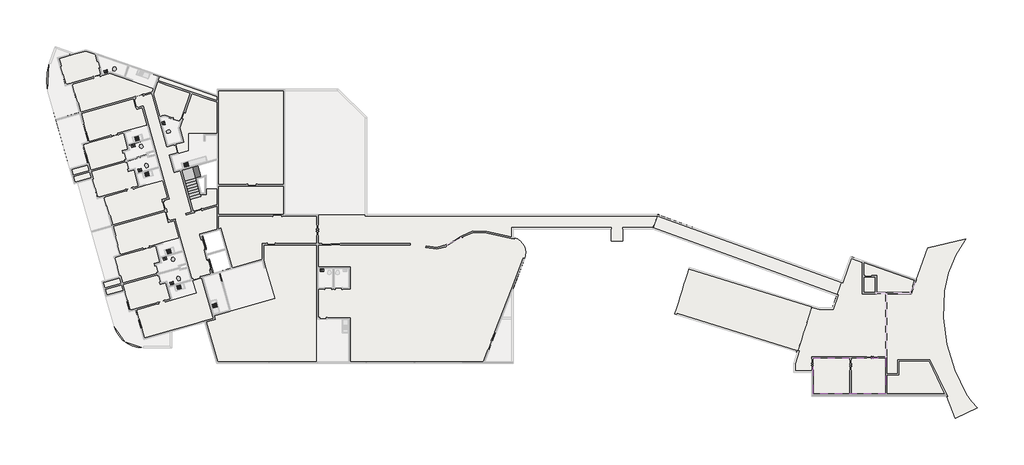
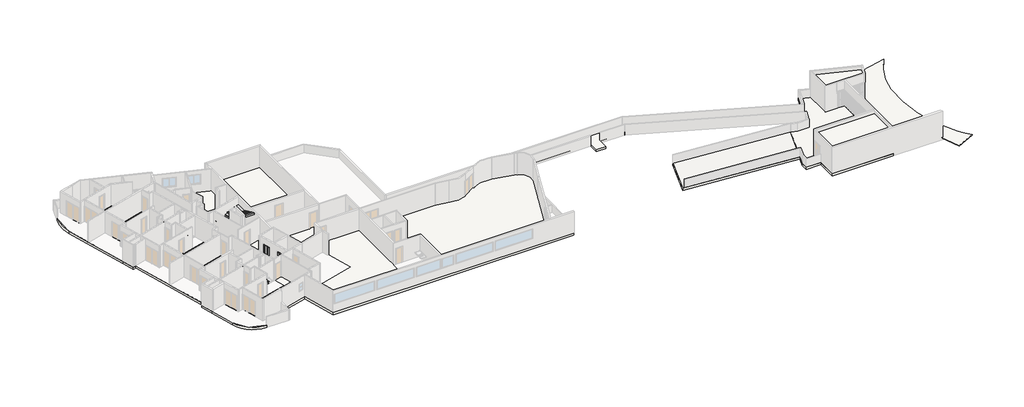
# One storey, part 6 of 7: 19 flow terminals, 7 slabs, 2 proxies, 1 stair flight.
"""IFC4 building model written with IfcOpenShell, lengths in millimetres."""

from ifc_helpers import new_model, si_unit, point, frame, frame_2d, origin, place, context, project, spatial, polyline, circle_curve, trimmed, segment, composite_curve, outline, extrude, faceted_brep, transform, mapped, element, save
from ifc_brep_helpers import plane_surface, cylinder_surface, spline_surface, advanced_brep
from components import specialty_equipment_6c35da8b, specialty_equipment_77dfa124, flow_terminal_cab7bae2, flow_terminal_3fb7dc42, flow_terminal_e42b9071, flow_terminal_c6e042c4, ap_01_creme_cr37_13e02e03, ap_01_creme_cr37_5ce6e54d

model = new_model("IFC4")

# Units and contexts
model_context = context("Model", 3, world=origin())
ifc_project = project(units=[si_unit("LENGTHUNIT", "METRE", prefix="MILLI")], contexts=[model_context])

# Site, building, storey
site = spatial("IfcSite", under=ifc_project)
building = spatial("IfcBuilding", under=site)
storey = spatial("IfcBuildingStorey", under=building, Name="Térreo", Elevation=50750.0)

# Proxies
placement = place(None, origin())
specialty_equipment_shape = specialty_equipment_6c35da8b(model_context)
element("IfcBuildingElementProxy", 1, Name="Porta do elevador : Porta do elevador", ObjectType="Porta do elevador : Porta do elevador", at=placement, inside=storey, context=model_context, shape_type="MappedRepresentation", body=[
    mapped(specialty_equipment_shape, transform((-76594.4337486, 15747.4543727, 50750.0), x_axis=(0.27176796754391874, -0.9623628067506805, 0.0), y_axis=(0.9623628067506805, 0.27176796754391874, 0.0), z_axis=(0.0, 0.0, 1.0))),
])
specialty_equipment_2_shape = specialty_equipment_77dfa124(model_context)
element("IfcBuildingElementProxy", 2, Name="Porta do elevador : Porta do elevador", ObjectType="Porta do elevador : Porta do elevador", at=placement, inside=storey, context=model_context, shape_type="MappedRepresentation", body=[
    mapped(specialty_equipment_2_shape, transform((-75942.1906265, 13437.7836365, 50750.0), x_axis=(-0.27176796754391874, 0.9623628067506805, 0.0), y_axis=(-0.9623628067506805, -0.27176796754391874, 0.0), z_axis=(0.0, 0.0, 1.0))),
])

# Flow terminals
flow_terminal_shape = flow_terminal_cab7bae2(model_context)
element("IfcFlowTerminal", 3, ObjectType="RF_Pias : Pia da Bancada", at=placement, inside=storey, context=model_context, shape_type="MappedRepresentation", body=[
    mapped(flow_terminal_shape, transform((-83380.5102831, 26570.4992214, 50602.9), x_axis=(-0.9623628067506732, -0.27176796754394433, 0.0), y_axis=(0.27176796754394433, -0.9623628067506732, 0.0), z_axis=(0.0, 0.0, 1.0))),
])
element("IfcFlowTerminal", 4, ObjectType="RF_Pias : Pia da Bancada", at=placement, inside=storey, context=model_context, shape_type="MappedRepresentation", body=[
    mapped(flow_terminal_shape, transform((-80092.1178758, 14925.9092597, 50602.9), x_axis=(-0.9623628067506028, -0.2717679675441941, 0.0), y_axis=(0.2717679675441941, -0.9623628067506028, 0.0), z_axis=(0.0, 0.0, 1.0))),
])
element("IfcFlowTerminal", 5, ObjectType="RF_Pias : Pia da Bancada", at=placement, inside=storey, context=model_context, shape_type="MappedRepresentation", body=[
    mapped(flow_terminal_shape, transform((-78306.8185143, 23885.0542694, 50602.9), x_axis=(-0.9623628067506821, -0.27176796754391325, 0.0), y_axis=(0.27176796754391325, -0.9623628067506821, 0.0), z_axis=(0.0, 0.0, 1.0))),
])
element("IfcFlowTerminal", 6, ObjectType="RF_Pias : Pia da Bancada", at=placement, inside=storey, context=model_context, shape_type="MappedRepresentation", body=[
    mapped(flow_terminal_shape, transform((-75375.3964006, 9339.3746481, 50582.9), x_axis=(-0.27176796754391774, 0.9623628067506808, 0.0), y_axis=(-0.9623628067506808, -0.27176796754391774, 0.0), z_axis=(0.0, 0.0, 1.0))),
])
flow_terminal_2_shape = flow_terminal_3fb7dc42(model_context)
element("IfcFlowTerminal", 7, ObjectType="Deca_Cuba de Apoio Retangular_L7300 : L.7300.17_Branco Gelo GE17", at=placement, inside=storey, context=model_context, shape_type="MappedRepresentation", body=[
    mapped(flow_terminal_2_shape, transform((-83090.0822283, 23308.7374016, 51500.0), x_axis=(-0.9623628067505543, -0.2717679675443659, 0.0), y_axis=(0.2717679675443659, -0.9623628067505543, 0.0), z_axis=(0.0, 0.0, 1.0))),
])
element("IfcFlowTerminal", 8, ObjectType="Deca_Cuba de Apoio Retangular_L7300 : L.7300.17_Branco Gelo GE17", at=placement, inside=storey, context=model_context, shape_type="MappedRepresentation", body=[
    mapped(flow_terminal_2_shape, transform((-79801.689821, 11664.1474399, 51500.0), x_axis=(-0.9623628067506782, -0.2717679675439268, 0.0), y_axis=(0.2717679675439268, -0.9623628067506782, 0.0), z_axis=(0.0, 0.0, 1.0))),
])
element("IfcFlowTerminal", 9, ObjectType="Deca_Cuba de Apoio Retangular_L7300 : L.7300.17_Branco Gelo GE17", at=placement, inside=storey, context=model_context, shape_type="MappedRepresentation", body=[
    mapped(flow_terminal_2_shape, transform((-80677.0991462, 28154.8020678, 51500.0), x_axis=(-0.2717679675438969, 0.9623628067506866, 0.0), y_axis=(-0.9623628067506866, -0.2717679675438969, 0.0), z_axis=(0.0, 0.0, 1.0))),
])
element("IfcFlowTerminal", 10, ObjectType="Deca_Cuba de Apoio Retangular_L7300 : L.7300.17_Branco Gelo GE17", at=placement, inside=storey, context=model_context, shape_type="MappedRepresentation", body=[
    mapped(flow_terminal_2_shape, transform((-86597.4204814, 33488.7004496, 51500.0), x_axis=(-0.9623628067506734, -0.27176796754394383, 0.0), y_axis=(0.27176796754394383, -0.9623628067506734, 0.0), z_axis=(0.0, 0.0, 1.0))),
])
element("IfcFlowTerminal", 11, ObjectType="Deca_Cuba de Apoio Retangular_L7300 : L.7300.17_Branco Gelo GE17", at=placement, inside=storey, context=model_context, shape_type="MappedRepresentation", body=[
    mapped(flow_terminal_2_shape, transform((-64330.7937868, 13026.8602024, 51500.0), x_axis=(1.0, 0.0, 0.0), y_axis=(0.0, 1.0, 0.0), z_axis=(0.0, 0.0, 1.0))),
])
flow_terminal_3_shape = flow_terminal_e42b9071(model_context)
element("IfcFlowTerminal", 12, ObjectType="Deca_Cuba de Apoio Retangular_L7300 : L.7300.17_Branco Gelo GE17", at=placement, inside=storey, context=model_context, shape_type="MappedRepresentation", body=[
    mapped(flow_terminal_3_shape, transform((-83802.1143033, 25830.1279553, 51500.0), x_axis=(-0.9623628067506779, -0.2717679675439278, 0.0), y_axis=(0.2717679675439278, -0.9623628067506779, 0.0), z_axis=(0.0, 0.0, 1.0))),
])
element("IfcFlowTerminal", 13, ObjectType="Deca_Cuba de Apoio Retangular_L7300 : L.7300.17_Branco Gelo GE17", at=placement, inside=storey, context=model_context, shape_type="MappedRepresentation", body=[
    mapped(flow_terminal_3_shape, transform((-80513.721896, 14185.5379936, 51500.0), x_axis=(-0.962362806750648, -0.27176796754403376, 0.0), y_axis=(0.27176796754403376, -0.962362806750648, 0.0), z_axis=(0.0, 0.0, 1.0))),
])
flow_terminal_4_shape = flow_terminal_c6e042c4(model_context)
element("IfcFlowTerminal", 14, ObjectType="RF_Pias : Pia da Bancada", at=placement, inside=storey, context=model_context, shape_type="MappedRepresentation", body=[
    mapped(flow_terminal_4_shape, transform((-82343.483233, 22898.2626745, 50602.9), x_axis=(-0.9623628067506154, -0.27176796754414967, 0.0), y_axis=(0.27176796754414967, -0.9623628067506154, 0.0), z_axis=(0.0, 0.0, 1.0))),
])
element("IfcFlowTerminal", 15, ObjectType="RF_Pias : Pia da Bancada", at=placement, inside=storey, context=model_context, shape_type="MappedRepresentation", body=[
    mapped(flow_terminal_4_shape, transform((-79055.0908257, 11253.6727129, 50602.9), x_axis=(-0.9623628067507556, -0.27176796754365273, 0.0), y_axis=(0.27176796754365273, -0.9623628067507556, 0.0), z_axis=(0.0, 0.0, 1.0))),
])
ap_01_creme_cr37_shape = ap_01_creme_cr37_13e02e03(model_context)
element("IfcFlowTerminal", 16, ObjectType="Deca_Shared_Assento_P.900 : AP.01_Creme CR37", at=placement, inside=storey, context=model_context, shape_type="MappedRepresentation", body=[
    mapped(ap_01_creme_cr37_shape, transform((-83017.5301151, 25983.4740486, 51137.8723674), x_axis=(0.9623628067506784, 0.2717679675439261, 0.0), y_axis=(0.0, 0.0, 1.0), z_axis=(0.2717679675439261, -0.9623628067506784, 0.0))),
])
element("IfcFlowTerminal", 17, ObjectType="Deca_Shared_Assento_P.900 : AP.01_Creme CR37", at=placement, inside=storey, context=model_context, shape_type="MappedRepresentation", body=[
    mapped(ap_01_creme_cr37_shape, transform((-79729.1377078, 14338.8840869, 51137.8723674), x_axis=(0.962362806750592, 0.2717679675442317, 0.0), y_axis=(0.0, 0.0, 1.0), z_axis=(0.2717679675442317, -0.962362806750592, 0.0))),
])
element("IfcFlowTerminal", 18, ObjectType="Deca_Shared_Assento_P.900 : AP.01_Creme CR37", at=placement, inside=storey, context=model_context, shape_type="MappedRepresentation", body=[
    mapped(ap_01_creme_cr37_shape, transform((-80349.5164684, 27236.3600819, 51137.8723674), x_axis=(-0.271767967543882, 0.9623628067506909, 0.0), y_axis=(0.0, 0.0, 1.0), z_axis=(0.9623628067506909, 0.271767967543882, 0.0))),
])
element("IfcFlowTerminal", 19, ObjectType="Deca_Shared_Assento_P.900 : AP.01_Creme CR37", at=placement, inside=storey, context=model_context, shape_type="MappedRepresentation", body=[
    mapped(ap_01_creme_cr37_shape, transform((-85777.8760768, 33566.4131555, 51137.8723674), x_axis=(-0.9449109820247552, 0.3273274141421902, 0.0), y_axis=(0.0, 0.0, 1.0000000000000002), z_axis=(0.3273274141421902, 0.9449109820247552, 0.0))),
])
ap_01_creme_cr37_2_shape = ap_01_creme_cr37_5ce6e54d(model_context)
element("IfcFlowTerminal", 20, ObjectType="Deca_Shared_Assento_P.900 : AP.01_Creme CR37", at=placement, inside=storey, context=model_context, shape_type="MappedRepresentation", body=[
    mapped(ap_01_creme_cr37_2_shape, transform((-82341.1813229, 23588.4422577, 51137.8723674), x_axis=(0.9623628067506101, 0.27176796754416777, 0.0), y_axis=(0.0, 0.0, -1.0), z_axis=(-0.27176796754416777, 0.9623628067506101, 0.0))),
])
element("IfcFlowTerminal", 21, ObjectType="Deca_Shared_Assento_P.900 : AP.01_Creme CR37", at=placement, inside=storey, context=model_context, shape_type="MappedRepresentation", body=[
    mapped(ap_01_creme_cr37_2_shape, transform((-79052.7889156, 11943.852296, 51137.8723674), x_axis=(0.9623628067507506, 0.2717679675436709, 0.0), y_axis=(0.0, 0.0, -1.0000000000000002), z_axis=(-0.2717679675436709, 0.9623628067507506, 0.0))),
])

# Slabs
element("IfcSlab", 22, ObjectType="Calçada", at=placement, inside=storey, context=model_context, shape_type="SweptSolid", body=[
    extrude(outline(composite_curve([segment(polyline([(-6138.4895645, 10557.3610556), (-3630.2706365, 10557.3610556), (-1963.3192226, 15271.3055805), (1951.4298644, 16208.1094907)]), True, "CONTINUOUS"), segment(trimmed(circle_curve(frame_2d((11644.971271, 9076.7694281)), 12034.149579), [point((1951.4298644, 16208.1094907))], [point((-260.1099974, 10834.5510077))], True, "CARTESIAN"), True, "CONTINUOUS"), segment(trimmed(circle_curve(frame_2d((16922.5456013, 8955.2746122)), 17285.1188366), [point((-260.1099974, 10834.5510077))], [point((2021.9216068, 194.7530655))], True, "CARTESIAN"), True, "CONTINUOUS"), segment(trimmed(circle_curve(frame_2d((8554.1916568, 4566.6956452)), 7860.3074956), [point((2021.9216068, 194.7530655))], [point((3179.1429854, -1168.571193))], True, "CARTESIAN"), True, "CONTINUOUS"), segment(polyline([(3179.1429854, -1168.571193), (890.7807838, -2286.4167189), (0.0, 0.0), (-78.0010107, 176.7254857)]), True, "CONTINUOUS"), segment(trimmed(circle_curve(frame_2d((15539.2697894, 9819.3259237)), 18354.2608255), [point((-78.0010107, 176.7254857))], [point((-1780.5648156, 3744.6062013))], False, "CARTESIAN"), True, "CONTINUOUS"), segment(polyline([(-1780.5648156, 3744.6062013), (-5014.4776622, 3744.6062013), (-5014.4776622, 2289.5154777), (-6138.4895645, 2289.5154777), (-6138.4895645, 10557.3610556)]), True, "CONTINUOUS")], self_intersect=False)), frame((0.0, 0.0, 49900.0), z_axis=(0.0, 0.0, 1.0), x_axis=(1.0, 0.0, 0.0)), (0.0, 0.0, 1.0), 100.0),
])
element("IfcSlab", 23, ObjectType="Grama Frente", at=placement, inside=storey, context=model_context, shape_type="SweptSolid", body=[
    extrude(outline(composite_curve([segment(polyline([(-4914.4776622, 3644.6062013), (-1798.2517429, 3644.6062013)]), True, "CONTINUOUS"), segment(trimmed(circle_curve(frame_2d((15539.2697894, 9819.3259237)), 18404.2608255), [point((-1798.2517429, 3644.6062013))], [point((-174.4948356, 238.3855813))], True, "CARTESIAN"), True, "CONTINUOUS"), segment(polyline([(-174.4948356, 238.3855813), (-6138.4895645, 238.3855813), (-6138.4895645, 2189.5154777), (-4914.4776622, 2189.5154777), (-4914.4776622, 3644.6062013)]), True, "CONTINUOUS")], self_intersect=False)), frame((0.0, 0.0, 49980.0), z_axis=(0.0, 0.0, 1.0), x_axis=(1.0, 0.0, 0.0)), (0.0, 0.0, 1.0), 50.0),
])
element("IfcSlab", 24, ObjectType="Laje do Terreno .30", at=placement, inside=storey, context=model_context, shape_type="SweptSolid", body=[
    extrude(outline(polyline([(-13902.9200377, 2488.9358327), (-15756.6412873, 2488.9358327), (-15756.6412873, 3354.594116), (-13851.9459486, 9322.604868), (-13088.3584045, 9085.4720862), (-11789.7304593, 9085.4720862), (-9887.8824024, 14414.0009377), (-3132.6390529, 12002.932743), (-3642.9714979, 10573.101823), (-6138.4895645, 10573.101823), (-6138.4895645, 9085.4720862), (-6138.4895645, -11.6144187), (-13902.9200377, -11.6144187), (-13902.9200377, 2488.9358327)])), frame((0.0, 0.0, 49700.0), z_axis=(0.0, 0.0, 1.0), x_axis=(1.0, 0.0, 0.0)), (0.0, 0.0, 1.0), 300.0),
])
element("IfcSlab", 25, ObjectType="TZ_Laje 30cm", at=placement, inside=storey, context=model_context, shape_type="AdvancedBrep", body=[
    advanced_brep(
    [(-82713.5540687, 4969.4122055, 50450.0), (-82751.3896972, 4969.4122055, 50450.0), (-85734.7143981, 7226.9315061, 50450.0), (-86588.8282747, 10251.4506758, 50450.0), (-86574.3928326, 10255.5271953, 50450.0), (-87018.7334595, 11828.9903844, 50450.0), (-86664.6795577, 11928.9739962, 50450.0), (-89512.8078575, 22014.5362109, 50450.0), (-89866.8617594, 21914.5525991, 50450.0), (-90311.2023863, 23488.0157882, 50450.0), (-90325.6378284, 23483.9392686, 50450.0), (-92573.2320087, 31442.9384962, 50450.0), (-92426.4466323, 34320.9224218, 50450.0), (-92422.0160621, 34333.7123509, 50450.0), (-92403.1178425, 34327.1658026, 50450.0), (-91809.986912, 36039.3839237, 50450.0), (-89899.2062586, 35377.468778, 50450.0), (-88658.6666899, 35727.7929124, 50450.0), (-75017.8282189, 31002.4584964, 50450.0), (-75017.8282189, 31653.8506069, 50450.0), (-62647.9579338, 31653.8506069, 50450.0), (-59748.6137209, 28783.499836, 50450.0), (-59748.6137209, 18732.5140353, 50450.0), (-29737.7953477, 18732.5140353, 50450.0), (-30275.4164284, 17249.2111284, 50450.0), (-33355.8701557, 17249.2111284, 50450.0), (-33355.8701557, 16029.7640731, 50450.0), (-34555.8701557, 16029.7640731, 50450.0), (-34555.8701557, 17249.2111284, 50450.0), (-44655.8696428, 17249.2111284, 50450.0), (-44675.8696428, 17249.2111284, 50450.0), (-44675.8696428, 16382.8294903, 50450.0), (-44655.8696428, 16378.3879966, 50450.0), (-44471.9861969, 16337.552138, 50450.0), (-43468.7505227, 14203.3206841, 50450.0), (-44655.8696428, 11136.1948461, 50450.0), (-44675.8696428, 11084.5214161, 50450.0), (-44675.8696428, 3431.0495751, 50450.0), (-44805.8696428, 3431.0495751, 50450.0), (-75180.5270822, 3431.0495751, 50450.0), (-76371.9880656, 7650.1551103, 50450.0), (-79815.4990038, 6677.7193903, 50450.0), (-79815.4990038, 4989.4122055, 50450.0), (-82713.5540687, 4989.4122055, 50450.0), (-81583.0058223, 25225.452261, 50450.0), (-82247.0361589, 25037.9323634, 50450.0), (-82179.094167, 24797.3416617, 50450.0), (-81515.0638304, 24984.8615593, 50450.0), (-78294.613415, 13580.8622993, 50450.0), (-78958.6437516, 13393.3424017, 50450.0), (-78890.7017597, 13152.7517, 50450.0), (-78226.6714231, 13340.2715976, 50450.0), (-78094.9681797, 20792.6698521, 50450.0), (-76942.9445832, 21117.9973784, 50450.0), (-76858.5413412, 20819.1154254, 50450.0), (-76278.8251242, 20819.1154254, 50450.0), (-76278.8251242, 21399.8710626, 50450.0), (-75147.8282189, 21399.8710626, 50450.0), (-75147.8282189, 24343.0530162, 50450.0), (-78807.9060206, 23309.4595541, 50450.0), (-74840.4856705, 17153.3066079, 50450.0), (-76760.3994699, 16611.1295126, 50450.0), (-76221.8794944, 14704.1660107, 50450.0), (-75646.150803, 12665.442005, 50450.0), (-73726.2370035, 13207.6191002, 50450.0), (-74270.7319215, 15135.7405865, 50450.0), (-82713.5540687, 4969.4122055, 50750.0), (-82713.5540687, 4989.4122055, 50750.0), (-79815.4990038, 4989.4122055, 50750.0), (-79815.4990038, 6677.7193903, 50750.0), (-76371.9880656, 7650.1551103, 50750.0), (-75180.5270822, 3431.0495751, 50750.0), (-44805.8696428, 3431.0495751, 50750.0), (-44675.8696428, 3431.0495751, 50750.0), (-44675.8696428, 11084.5214161, 50750.0), (-44655.8696428, 11136.1948461, 50750.0), (-43468.7505227, 14203.3206841, 50750.0), (-44471.9861969, 16337.552138, 50750.0), (-44655.8696428, 16378.3879966, 50750.0), (-44675.8696428, 16382.8294903, 50750.0), (-44675.8696428, 17249.2111284, 50750.0), (-44655.8696428, 17249.2111284, 50750.0), (-34555.8701557, 17249.2111284, 50750.0), (-34555.8701557, 16029.7640731, 50750.0), (-33355.8701557, 16029.7640731, 50750.0), (-33355.8701557, 17249.2111284, 50750.0), (-30275.4164284, 17249.2111284, 50750.0), (-29737.7953477, 18732.5140353, 50750.0), (-59748.6137209, 18732.5140353, 50750.0), (-59748.6137209, 28783.499836, 50750.0), (-62647.9579338, 31653.8506069, 50750.0), (-75017.8282189, 31653.8506069, 50750.0), (-75017.8282189, 31002.4584964, 50750.0), (-88658.6666899, 35727.7929124, 50750.0), (-89899.2062586, 35377.468778, 50750.0), (-91809.986912, 36039.3839237, 50750.0), (-92403.1178425, 34327.1658026, 50750.0), (-92422.0160621, 34333.7123509, 50750.0), (-92426.4466323, 34320.9224218, 50750.0), (-92573.2320087, 31442.9384962, 50750.0), (-90325.6378284, 23483.9392686, 50750.0), (-90311.2023863, 23488.0157882, 50750.0), (-89866.8617594, 21914.5525991, 50750.0), (-89512.8078575, 22014.5362109, 50750.0), (-86664.6795577, 11928.9739962, 50750.0), (-87018.7334595, 11828.9903844, 50750.0), (-86574.3928326, 10255.5271953, 50750.0), (-86588.8282747, 10251.4506758, 50750.0), (-85734.7143981, 7226.9315061, 50750.0), (-82751.3896972, 4969.4122055, 50750.0), (-81583.0058223, 25225.452261, 50750.0), (-81515.0638304, 24984.8615593, 50750.0), (-82179.094167, 24797.3416617, 50750.0), (-82247.0361589, 25037.9323634, 50750.0), (-78294.613415, 13580.8622993, 50750.0), (-78226.6714231, 13340.2715976, 50750.0), (-78890.7017597, 13152.7517, 50750.0), (-78958.6437516, 13393.3424017, 50750.0), (-78094.9681797, 20792.6698521, 50750.0), (-78807.9060206, 23309.4595541, 50750.0), (-75147.8282189, 24343.0530162, 50750.0), (-75147.8282189, 21399.8710626, 50750.0), (-76278.8251242, 21399.8710626, 50750.0), (-76278.8251242, 20819.1154254, 50750.0), (-76858.5413412, 20819.1154254, 50750.0), (-76942.9445832, 21117.9973784, 50750.0), (-74840.4856705, 17153.3066079, 50750.0), (-74270.7319215, 15135.7405865, 50750.0), (-73726.2370035, 13207.6191002, 50750.0), (-75646.150803, 12665.442005, 50750.0), (-76221.8794944, 14704.1660107, 50750.0), (-76760.3994699, 16611.1295126, 50750.0)],
    [
        (0, 1),
        (1, 2, circle_curve(frame((-82751.3896972, 8069.4122055, 50450.0), z_axis=(0.0, 0.0, -1.0), x_axis=(1.0, 0.0, 0.0)), 3100.0)),
        (2, 3),
        (3, 4),
        (4, 5),
        (5, 6),
        (6, 7),
        (7, 8),
        (8, 9),
        (9, 10),
        (10, 11),
        (11, 12, circle_curve(frame((-87414.5556743, 32622.5665107, 50450.0), z_axis=(0.0, 0.0, -1.0), x_axis=(1.0, 0.0, 0.0)), 5291.829908)),
        (12, 13),
        (13, 14),
        (14, 15),
        (15, 16),
        (16, 17),
        (17, 18),
        (18, 19),
        (19, 20),
        (20, 21),
        (21, 22),
        (22, 23),
        (23, 24),
        (24, 25),
        (25, 26),
        (26, 27),
        (27, 28),
        (28, 29),
        (29, 30),
        (30, 31),
        (31, 32),
        (32, 33),
        (33, 34, circle_curve(frame((-44988.8624494, 14791.6740899, 50450.0), z_axis=(0.0, 0.0, -1.0), x_axis=(1.0, 0.0, 0.0)), 1630.0)),
        (34, 35),
        (35, 36),
        (36, 37),
        (37, 38),
        (38, 39),
        (39, 40),
        (40, 41),
        (41, 42),
        (42, 43),
        (43, 0),
        (44, 45),
        (45, 46),
        (46, 47),
        (47, 44),
        (48, 49),
        (49, 50),
        (50, 51),
        (51, 48),
        (52, 53),
        (53, 54),
        (54, 55),
        (55, 56),
        (56, 57),
        (57, 58),
        (58, 59),
        (59, 52),
        (60, 61),
        (61, 62),
        (62, 63),
        (63, 64),
        (64, 65),
        (65, 60),
        (66, 67),
        (67, 68),
        (68, 69),
        (69, 70),
        (70, 71),
        (71, 72),
        (72, 73),
        (73, 74),
        (74, 75),
        (75, 76),
        (76, 77, circle_curve(frame((-44988.8624494, 14791.6740899, 50750.0), z_axis=(0.0, 0.0, 1.0), x_axis=(1.0, 0.0, 0.0)), 1630.0)),
        (77, 78),
        (78, 79),
        (79, 80),
        (80, 81),
        (81, 82),
        (82, 83),
        (83, 84),
        (84, 85),
        (85, 86),
        (86, 87),
        (87, 88),
        (88, 89),
        (89, 90),
        (90, 91),
        (91, 92),
        (92, 93),
        (93, 94),
        (94, 95),
        (95, 96),
        (96, 97),
        (97, 98),
        (98, 99, circle_curve(frame((-87414.5556743, 32622.5665107, 50750.0), z_axis=(0.0, 0.0, 1.0), x_axis=(1.0, 0.0, 0.0)), 5291.829908)),
        (99, 100),
        (100, 101),
        (101, 102),
        (102, 103),
        (103, 104),
        (104, 105),
        (105, 106),
        (106, 107),
        (107, 108),
        (108, 109, circle_curve(frame((-82751.3896972, 8069.4122055, 50750.0), z_axis=(0.0, 0.0, 1.0), x_axis=(1.0, 0.0, 0.0)), 3100.0)),
        (109, 66),
        (110, 111),
        (111, 112),
        (112, 113),
        (113, 110),
        (114, 115),
        (115, 116),
        (116, 117),
        (117, 114),
        (118, 119),
        (119, 120),
        (120, 121),
        (121, 122),
        (122, 123),
        (123, 124),
        (124, 125),
        (125, 118),
        (126, 127),
        (127, 128),
        (128, 129),
        (129, 130),
        (130, 131),
        (131, 126),
        (0, 66),
        (109, 1),
        (108, 2),
        (107, 3),
        (6, 104),
        (103, 7),
        (10, 100),
        (99, 11),
        (98, 12),
        (97, 13),
        (16, 94),
        (93, 17),
        (92, 18),
        (91, 19),
        (40, 70),
        (69, 41),
        (44, 110),
        (113, 45),
        (112, 46),
        (111, 47),
        (48, 114),
        (117, 49),
        (116, 50),
        (115, 51),
        (52, 118),
        (125, 53),
        (124, 54),
        (123, 55),
        (122, 56),
        (121, 57),
        (120, 58),
        (119, 59),
        (106, 4),
        (105, 5),
        (102, 8),
        (101, 9),
        (96, 14),
        (95, 15),
        (68, 42),
        (67, 43),
        (60, 126),
        (131, 61),
        (130, 62),
        (129, 63),
        (128, 64),
        (127, 65),
        (90, 20),
        (89, 21),
        (88, 22),
        (87, 23),
        (86, 24),
        (85, 25),
        (84, 26),
        (83, 27),
        (82, 28),
        (80, 30),
        (79, 31),
        (77, 33),
        (76, 34),
        (74, 36),
        (73, 37),
        (71, 39),
    ],
    [
        plane_surface(frame((-82707.5328117, 4969.4122055, 50450.0), z_axis=(0.0, 0.0, -1.0), x_axis=(-1.0, 0.0, 0.0))),
        plane_surface(frame((-82707.5328117, 4969.4122055, 50750.0), z_axis=(0.0, 0.0, 1.0), x_axis=(1.0, 0.0, 0.0))),
        plane_surface(frame((-82713.5540687, 4969.4122055, 50450.0), z_axis=(0.0, -1.0, 0.0), x_axis=(0.0, 0.0, 1.0))),
        cylinder_surface(frame((-82751.3896972, 8069.4122055, 50750.0), z_axis=(0.0, 0.0, -1.0), x_axis=(1.0, 0.0, 0.0)), 3100.0),
        plane_surface(frame((-85734.7143981, 7226.9315061, 50450.0), z_axis=(-0.9623628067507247, -0.2717679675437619, 0.0), x_axis=(0.0, 0.0, 1.0))),
        plane_surface(frame((-86664.6795577, 11928.9739962, 50450.0), z_axis=(-0.9623628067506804, -0.27176796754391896, 0.0), x_axis=(0.0, 0.0, 1.0))),
        plane_surface(frame((-90325.6378284, 23483.9392686, 50450.0), z_axis=(-0.9623628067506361, -0.2717679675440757, 0.0), x_axis=(0.0, 0.0, 1.0))),
        cylinder_surface(frame((-87414.5556743, 32622.5665107, 50750.0), z_axis=(0.0, 0.0, -1.0), x_axis=(1.0, 0.0, 0.0)), 5291.829908),
        plane_surface(frame((-92426.4466323, 34320.9224218, 50450.0), z_axis=(-0.9449109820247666, 0.3273274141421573, 0.0), x_axis=(0.0, 0.0, 1.0))),
        plane_surface(frame((-89899.2062586, 35377.468778, 50450.0), z_axis=(-0.2717679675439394, 0.9623628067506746, 0.0), x_axis=(0.0, 0.0, 1.0))),
        plane_surface(frame((-88658.6666899, 35727.7929124, 50450.0), z_axis=(0.327327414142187, 0.9449109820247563, 0.0), x_axis=(0.0, 0.0, 1.0))),
        plane_surface(frame((-75017.8282189, 31002.4584964, 50450.0), z_axis=(-1.0, 0.0, 0.0), x_axis=(0.0, 0.0, 1.0))),
        plane_surface(frame((-76371.9880656, 7650.1551103, 50450.0), z_axis=(0.27176796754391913, -0.9623628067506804, 0.0), x_axis=(0.0, 0.0, 1.0))),
        plane_surface(frame((-81583.0058223, 25225.452261, 50450.0), z_axis=(0.2717679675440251, -0.9623628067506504, 0.0), x_axis=(0.0, 0.0, 1.0))),
        plane_surface(frame((-82247.0361589, 25037.9323634, 50450.0), z_axis=(0.9623628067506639, 0.2717679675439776, 0.0), x_axis=(0.0, 0.0, 1.0))),
        plane_surface(frame((-82179.094167, 24797.3416617, 50450.0), z_axis=(-0.2717679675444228, 0.9623628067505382, 0.0), x_axis=(0.0, 0.0, 1.0))),
        plane_surface(frame((-81515.0638304, 24984.8615593, 50450.0), z_axis=(-0.9623628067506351, -0.2717679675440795, 0.0), x_axis=(0.0, 0.0, 1.0))),
        plane_surface(frame((-78294.613415, 13580.8622993, 50450.0), z_axis=(0.2717679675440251, -0.9623628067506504, 0.0), x_axis=(0.0, 0.0, 1.0))),
        plane_surface(frame((-78958.6437516, 13393.3424017, 50450.0), z_axis=(0.9623628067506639, 0.2717679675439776, 0.0), x_axis=(0.0, 0.0, 1.0))),
        plane_surface(frame((-78890.7017597, 13152.7517, 50450.0), z_axis=(-0.27176796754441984, 0.962362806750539, 0.0), x_axis=(0.0, 0.0, 1.0))),
        plane_surface(frame((-78226.6714231, 13340.2715976, 50450.0), z_axis=(-0.9623628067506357, -0.2717679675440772, 0.0), x_axis=(0.0, 0.0, 1.0))),
        plane_surface(frame((-78094.9681797, 20792.6698521, 50450.0), z_axis=(-0.2717679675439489, 0.962362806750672, 0.0), x_axis=(0.0, 0.0, 1.0))),
        plane_surface(frame((-76942.9445832, 21117.9973784, 50450.0), z_axis=(0.9623628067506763, 0.27176796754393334, 0.0), x_axis=(0.0, 0.0, 1.0))),
        plane_surface(frame((-76858.5413412, 20819.1154254, 50450.0), z_axis=(0.0, 1.0, 0.0), x_axis=(0.0, 0.0, 1.0))),
        plane_surface(frame((-76278.8251242, 20819.1154254, 50450.0), z_axis=(-1.0, 0.0, 0.0), x_axis=(0.0, 0.0, 1.0))),
        plane_surface(frame((-76278.8251242, 21399.8710626, 50450.0), z_axis=(0.0, 1.0, 0.0), x_axis=(0.0, 0.0, 1.0))),
        plane_surface(frame((-75147.8282189, 21399.8710626, 50450.0), z_axis=(-1.0, 0.0, 0.0), x_axis=(0.0, 0.0, 1.0))),
        plane_surface(frame((-75147.8282189, 24343.0530162, 50450.0), z_axis=(0.2717679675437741, -0.9623628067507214, 0.0), x_axis=(0.0, 0.0, 1.0))),
        plane_surface(frame((-78807.9060206, 23309.4595541, 50450.0), z_axis=(0.9621420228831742, 0.2725485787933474, 0.0), x_axis=(0.0, 0.0, 1.0))),
        plane_surface(frame((-86588.8282747, 10251.4506758, 50450.0), z_axis=(-0.27176796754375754, 0.9623628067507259, 0.0), x_axis=(0.0, 0.0, 1.0))),
        plane_surface(frame((-86574.3928326, 10255.5271953, 50450.0), z_axis=(-0.9623628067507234, -0.2717679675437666, 0.0), x_axis=(0.0, 0.0, 1.0))),
        plane_surface(frame((-87018.7334595, 11828.9903844, 50450.0), z_axis=(-0.27176796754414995, 0.9623628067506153, 0.0), x_axis=(0.0, 0.0, 1.0))),
        plane_surface(frame((-89512.8078575, 22014.5362109, 50450.0), z_axis=(0.27176796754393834, -0.962362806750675, 0.0), x_axis=(0.0, 0.0, 1.0))),
        plane_surface(frame((-89866.8617594, 21914.5525991, 50450.0), z_axis=(-0.9623628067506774, -0.2717679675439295, 0.0), x_axis=(0.0, 0.0, 1.0))),
        plane_surface(frame((-90311.2023863, 23488.0157882, 50450.0), z_axis=(0.2717679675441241, -0.9623628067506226, 0.0), x_axis=(0.0, 0.0, 1.0))),
        plane_surface(frame((-92422.0160621, 34333.7123509, 50450.0), z_axis=(0.3273274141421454, 0.9449109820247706, 0.0), x_axis=(0.0, 0.0, 1.0))),
        plane_surface(frame((-92403.1178425, 34327.1658026, 50450.0), z_axis=(-0.9449109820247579, 0.3273274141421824, 0.0), x_axis=(0.0, 0.0, 1.0))),
        plane_surface(frame((-91809.986912, 36039.3839237, 50450.0), z_axis=(0.3273274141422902, 0.9449109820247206, 0.0), x_axis=(0.0, 0.0, 1.0))),
        plane_surface(frame((-79815.4990038, 6677.7193903, 50450.0), z_axis=(1.0, 0.0, 0.0), x_axis=(0.0, 0.0, 1.0))),
        plane_surface(frame((-79815.4990038, 4989.4122055, 50450.0), z_axis=(0.0, -1.0, 0.0), x_axis=(0.0, 0.0, 1.0))),
        plane_surface(frame((-82713.5540687, 4989.4122055, 50450.0), z_axis=(1.0, 0.0, 0.0), x_axis=(0.0, 0.0, 1.0))),
        plane_surface(frame((-74840.4856705, 17153.3066079, 50450.0), z_axis=(0.2717679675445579, -0.9623628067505, 0.0), x_axis=(0.0, 0.0, 1.0))),
        plane_surface(frame((-76760.3994699, 16611.1295126, 50450.0), z_axis=(0.96236280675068, 0.27176796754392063, 0.0), x_axis=(0.0, 0.0, 1.0))),
        plane_surface(frame((-76221.8794944, 14704.1660107, 50450.0), z_axis=(0.9623628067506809, 0.27176796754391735, 0.0), x_axis=(0.0, 0.0, 1.0))),
        plane_surface(frame((-75646.150803, 12665.442005, 50450.0), z_axis=(-0.27176796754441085, 0.9623628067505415, 0.0), x_axis=(0.0, 0.0, 1.0))),
        plane_surface(frame((-73726.2370035, 13207.6191002, 50450.0), z_axis=(-0.9623628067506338, -0.27176796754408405, 0.0), x_axis=(0.0, 0.0, 1.0))),
        plane_surface(frame((-74270.7319215, 15135.7405865, 50450.0), z_axis=(-0.9623628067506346, -0.27176796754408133, 0.0), x_axis=(0.0, 0.0, 1.0))),
        plane_surface(frame((-75017.8282189, 31653.8506069, 50450.0), z_axis=(0.0, 1.0, 0.0), x_axis=(0.0, 0.0, 1.0))),
        plane_surface(frame((-62647.9579338, 31653.8506069, 50450.0), z_axis=(0.703544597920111, 0.7106511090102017, 0.0), x_axis=(0.0, 0.0, 1.0))),
        plane_surface(frame((-59748.6137209, 28783.499836, 50450.0), z_axis=(1.0, 0.0, 0.0), x_axis=(0.0, 0.0, 1.0))),
        plane_surface(frame((-59748.6137209, 18732.5140353, 50450.0), z_axis=(0.0, 1.0, 0.0), x_axis=(0.0, 0.0, 1.0))),
        plane_surface(frame((-29737.7953477, 18732.5140353, 50450.0), z_axis=(0.9401515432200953, -0.34075662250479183, 0.0), x_axis=(0.0, 0.0, 1.0))),
        plane_surface(frame((-30275.4164284, 17249.2111284, 50450.0), z_axis=(0.0, -1.0, 0.0), x_axis=(0.0, 0.0, 1.0))),
        plane_surface(frame((-33355.8701557, 17249.2111284, 50450.0), z_axis=(1.0, 0.0, 0.0), x_axis=(0.0, 0.0, 1.0))),
        plane_surface(frame((-33355.8701557, 16029.7640731, 50450.0), z_axis=(0.0, -1.0, 0.0), x_axis=(0.0, 0.0, 1.0))),
        plane_surface(frame((-34555.8701557, 16029.7640731, 50450.0), z_axis=(-1.0, 0.0, 0.0), x_axis=(0.0, 0.0, 1.0))),
        plane_surface(frame((-34555.8701557, 17249.2111284, 50450.0), z_axis=(0.0, -1.0, 0.0), x_axis=(0.0, 0.0, 1.0))),
        plane_surface(frame((-44675.8696428, 17249.2111284, 50450.0), z_axis=(1.0, 0.0, 0.0), x_axis=(0.0, 0.0, 1.0))),
        plane_surface(frame((-44675.8696428, 16382.8294903, 50450.0), z_axis=(0.21679320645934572, 0.976217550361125, 0.0), x_axis=(0.0, 0.0, 1.0))),
        cylinder_surface(frame((-44988.8624494, 14791.6740899, 50750.0), z_axis=(0.0, 0.0, -1.0), x_axis=(1.0, 0.0, 0.0)), 1630.0),
        plane_surface(frame((-43468.7505227, 14203.3206841, 50450.0), z_axis=(0.9325840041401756, -0.3609530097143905, 0.0), x_axis=(0.0, 0.0, 1.0))),
        plane_surface(frame((-44675.8696428, 11084.5214161, 50450.0), z_axis=(1.0, 0.0, 0.0), x_axis=(0.0, 0.0, 1.0))),
        plane_surface(frame((-44675.8696428, 3431.0495751, 50450.0), z_axis=(0.0, -1.0, 0.0), x_axis=(0.0, 0.0, 1.0))),
        plane_surface(frame((-75180.5270822, 3431.0495751, 50450.0), z_axis=(-0.9623628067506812, -0.27176796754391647, 0.0), x_axis=(0.0, 0.0, 1.0))),
    ],
    [
        (0, [[1, 2, 3, 4, 5, 6, 7, 8, 9, 10, 11, 12, 13, 14, 15, 16, 17, 18, 19, 20, 21, 22, 23, 24, 25, 26, 27, 28, 29, 30, 31, 32, 33, 34, 35, 36, 37, 38, 39, 40, 41, 42, 43, 44], [45, 46, 47, 48], [49, 50, 51, 52], [53, 54, 55, 56, 57, 58, 59, 60], [61, 62, 63, 64, 65, 66]]),
        (1, [[67, 68, 69, 70, 71, 72, 73, 74, 75, 76, 77, 78, 79, 80, 81, 82, 83, 84, 85, 86, 87, 88, 89, 90, 91, 92, 93, 94, 95, 96, 97, 98, 99, 100, 101, 102, 103, 104, 105, 106, 107, 108, 109, 110], [111, 112, 113, 114], [115, 116, 117, 118], [119, 120, 121, 122, 123, 124, 125, 126], [127, 128, 129, 130, 131, 132]]),
        (2, [[-1, 133, -110, 134]]),
        (3, [[-2, -134, -109, 135]]),
        (4, [[-3, -135, -108, 136]]),
        (5, [[-7, 137, -104, 138]]),
        (6, [[-11, 139, -100, 140]]),
        (7, [[-12, -140, -99, 141]]),
        (8, [[-13, -141, -98, 142]]),
        (9, [[-17, 143, -94, 144]]),
        (10, [[-18, -144, -93, 145]]),
        (11, [[-19, -145, -92, 146]]),
        (12, [[-41, 147, -70, 148]]),
        (13, [[-45, 149, -114, 150]]),
        (14, [[-46, -150, -113, 151]]),
        (15, [[-47, -151, -112, 152]]),
        (16, [[-48, -152, -111, -149]]),
        (17, [[-49, 153, -118, 154]]),
        (18, [[-50, -154, -117, 155]]),
        (19, [[-51, -155, -116, 156]]),
        (20, [[-52, -156, -115, -153]]),
        (21, [[-53, 157, -126, 158]]),
        (22, [[-54, -158, -125, 159]]),
        (23, [[-55, -159, -124, 160]]),
        (24, [[-56, -160, -123, 161]]),
        (25, [[-57, -161, -122, 162]]),
        (26, [[-58, -162, -121, 163]]),
        (27, [[-59, -163, -120, 164]]),
        (28, [[-60, -164, -119, -157]]),
        (29, [[-4, -136, -107, 165]]),
        (30, [[-5, -165, -106, 166]]),
        (31, [[-6, -166, -105, -137]]),
        (32, [[-8, -138, -103, 167]]),
        (33, [[-9, -167, -102, 168]]),
        (34, [[-10, -168, -101, -139]]),
        (35, [[-14, -142, -97, 169]]),
        (36, [[-15, -169, -96, 170]]),
        (37, [[-16, -170, -95, -143]]),
        (38, [[-42, -148, -69, 171]]),
        (39, [[-43, -171, -68, 172]]),
        (40, [[-44, -172, -67, -133]]),
        (41, [[-61, 173, -132, 174]]),
        (42, [[-62, -174, -131, 175]]),
        (43, [[-63, -175, -130, 176]]),
        (44, [[-64, -176, -129, 177]]),
        (45, [[-65, -177, -128, 178]]),
        (46, [[-66, -178, -127, -173]]),
        (47, [[-20, -146, -91, 179]]),
        (48, [[-21, -179, -90, 180]]),
        (49, [[-22, -180, -89, 181]]),
        (50, [[-23, -181, -88, 182]]),
        (51, [[-24, -182, -87, 183]]),
        (52, [[-25, -183, -86, 184]]),
        (53, [[-26, -184, -85, 185]]),
        (54, [[-27, -185, -84, 186]]),
        (55, [[-28, -186, -83, 187]]),
        (56, [[-30, -29, -187, -82, -81, 188]]),
        (57, [[-31, -188, -80, 189]]),
        (58, [[-33, -32, -189, -79, -78, 190]]),
        (59, [[-34, -190, -77, 191]]),
        (60, [[-36, -35, -191, -76, -75, 192]]),
        (61, [[-37, -192, -74, 193]]),
        (62, [[-39, -38, -193, -73, -72, 194]]),
        (63, [[-40, -194, -71, -147]]),
    ],
),
])
element("IfcSlab", 26, ObjectType="TZ_Laje 30cm", at=placement, inside=storey, context=model_context, shape_type="AdvancedBrep", body=[
    advanced_brep(
    [(-29744.2699371, 18714.6505667, 50450.0), (-29744.2699371, 18714.6505667, 50750.0), (-10803.2035621, 11849.4873373, 50000.0), (-10803.2035621, 11849.4873373, 49700.0), (-11327.6016733, 10380.2477442, 50000.0), (-11327.6016733, 10380.2477442, 49700.0), (-30275.8502682, 17248.0141592, 50750.0), (-30275.8502682, 17248.0141592, 50450.0)],
    [
        (0, 1),
        (1, 2),
        (2, 3),
        (3, 0),
        (2, 4),
        (4, 5),
        (5, 3),
        (4, 6),
        (6, 7),
        (7, 5),
        (6, 1),
        (0, 7),
    ],
    [
        plane_surface(frame((-29744.2699371, 18714.6505667, 50450.0), z_axis=(0.3407566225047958, 0.9401515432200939, 0.0), x_axis=(0.0, 0.0, 1.0))),
        plane_surface(frame((-10803.2035621, 11849.4873373, 50450.0), z_axis=(0.9418089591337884, -0.33614860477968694, 0.0), x_axis=(0.0, 0.0, 1.0))),
        plane_surface(frame((-11327.6016733, 10380.2477442, 50450.0), z_axis=(-0.34075662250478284, -0.9401515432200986, 0.0), x_axis=(0.0, 0.0, 1.0))),
        plane_surface(frame((-30275.8502682, 17248.0141592, 50450.0), z_axis=(-0.9401515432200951, 0.3407566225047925, 0.0), x_axis=(0.0, 0.0, 1.0))),
        spline_surface(1, 1, [[(-11327.6016733, 10380.2477442, 50000.0), (-30275.8502682, 17248.0141592, 50750.0)], [(-10803.2035621, 11849.4873373, 50000.0), (-29744.2699371, 18714.6505667, 50750.0)]], [2, 2], [2, 2], [0.0, 1.0], [0.0, 1.0]),
        spline_surface(1, 1, [[(-11327.6016733, 10380.2477442, 49700.0), (-10803.2035621, 11849.4873373, 49700.0)], [(-30275.8502682, 17248.0141592, 50450.0), (-29744.2699371, 18714.6505667, 50450.0)]], [2, 2], [2, 2], [0.0, 1.0], [0.0, 1.0]),
    ],
    [
        (0, [[1, 2, 3, 4]]),
        (1, [[-3, 5, 6, 7]]),
        (2, [[-6, 8, 9, 10]]),
        (3, [[-9, 11, -1, 12]]),
        (4, [[-8, -5, -2, -11]]),
        (5, [[-12, -4, -7, -10]]),
    ],
),
])
element("IfcSlab", 27, ObjectType="TZ_Laje 30cm", at=placement, inside=storey, context=model_context, shape_type="SweptSolid", body=[
    extrude(outline(polyline([(-13752.9200377, 238.3855813), (-13752.9200377, 3935.4720862), (-6288.4895645, 3935.4720862), (-6288.4895645, 238.3855813), (-13752.9200377, 238.3855813)])), frame((0.0, 0.0, 52700.0), z_axis=(0.0, 0.0, 1.0), x_axis=(1.0, 0.0, 0.0)), (0.0, 0.0, 1.0), 300.0),
    extrude(outline(polyline([(-8522.0478779, 13776.6282188), (-3303.5362142, 11931.2510935), (-3736.9435818, 10705.625517), (-8522.0478779, 10705.625517), (-8522.0478779, 13776.6282188)])), frame((0.0, 0.0, 52700.0), z_axis=(0.0, 0.0, 1.0), x_axis=(1.0, 0.0, 0.0)), (0.0, 0.0, 1.0), 300.0),
])
element("IfcSlab", 28, ObjectType="TZ_Rampa", at=placement, inside=storey, context=model_context, shape_type="AdvancedBrep", body=[
    advanced_brep(
    [(-26499.942111, 13250.4511741, 47550.0), (-26499.942111, 13250.4511741, 47850.0), (-13851.9459486, 9322.604868, 50000.0), (-13851.9459486, 9322.604868, 49700.0), (-15372.2013601, 4559.1655623, 50000.0), (-15372.2013601, 4559.1655623, 49700.0), (-27982.8356182, 8475.4090962, 47850.0), (-27982.8356182, 8475.4090962, 47550.0)],
    [
        (0, 1),
        (1, 2),
        (2, 3),
        (3, 0),
        (2, 4),
        (4, 5),
        (5, 3),
        (4, 6),
        (6, 7),
        (7, 5),
        (6, 1),
        (0, 7),
    ],
    [
        plane_surface(frame((-26499.942111, 13250.4511741, 49700.0), z_axis=(0.296578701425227, 0.955008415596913, 0.0), x_axis=(0.0, 0.0, 1.0))),
        plane_surface(frame((-13851.9459486, 9322.604868, 49700.0), z_axis=(0.9526587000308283, -0.30404177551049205, 0.0), x_axis=(0.0, 0.0, 1.0))),
        plane_surface(frame((-15372.2013601, 4559.1655623, 49700.0), z_axis=(-0.29657870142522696, -0.9550084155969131, 0.0), x_axis=(0.0, 0.0, 1.0))),
        plane_surface(frame((-27982.8356182, 8475.4090962, 49700.0), z_axis=(-0.9550084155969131, 0.29657870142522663, 0.0), x_axis=(0.0, 0.0, 1.0))),
        spline_surface(1, 1, [[(-15372.2013601, 4559.1655623, 50000.0), (-27982.8356182, 8475.4090962, 47850.0)], [(-13851.9459486, 9322.604868, 50000.0), (-26499.942111, 13250.4511741, 47850.0)]], [2, 2], [2, 2], [0.0, 1.0], [0.0, 1.0]),
        spline_surface(1, 1, [[(-15372.2013601, 4559.1655623, 49700.0), (-13851.9459486, 9322.604868, 49700.0)], [(-27982.8356182, 8475.4090962, 47550.0), (-26499.942111, 13250.4511741, 47550.0)]], [2, 2], [2, 2], [0.0, 1.0], [0.0, 1.0]),
    ],
    [
        (0, [[1, 2, 3, 4]]),
        (1, [[-3, 5, 6, 7]]),
        (2, [[-6, 8, 9, 10]]),
        (3, [[-9, 11, -1, 12]]),
        (4, [[-8, -5, -2, -11]]),
        (5, [[-12, -4, -7, -10]]),
    ],
),
])

# Stair flight
element("IfcStairFlight", 29, ObjectType="Profundidade de 150mm", at=placement, inside=storey, context=model_context, shape_type="Brep", body=[
    faceted_brep([(-78029.0944782, 20560.1246789, 50888.0952381), (-77952.7808761, 20290.7249124, 50888.0952381), (-76802.2714069, 20616.6328483, 50888.0952381), (-76878.3664628, 20886.0945229, 50888.0952381), (-78029.0944782, 20560.1246789, 50750.0), (-77952.7808761, 20290.7249124, 50750.0), (-76802.2714069, 20616.6328483, 50750.0), (-76878.3664628, 20886.0945229, 50750.0), (-78105.4080802, 20829.5244453, 51026.1904762), (-78029.0944782, 20560.1246789, 51026.1904762), (-76878.3664628, 20886.0945229, 51026.1904762), (-76954.4615188, 21155.5561975, 51026.1904762), (-78105.4080802, 20829.5244453, 50858.939228), (-78045.2065482, 20617.0029783, 50750.0), (-76894.4323913, 20942.985893, 50750.0), (-76954.4615188, 21155.5561975, 50858.939228), (-78181.7216823, 21098.9242117, 51164.2857143), (-78105.4080802, 20829.5244453, 51164.2857143), (-76954.4615188, 21155.5561975, 51164.2857143), (-77030.5565747, 21425.017872, 51164.2857143), (-78181.7216823, 21098.9242117, 50997.0344661), (-77030.5565747, 21425.017872, 50997.0344661), (-78258.0352843, 21368.3239781, 51302.3809524), (-78181.7216823, 21098.9242117, 51302.3809524), (-77030.5565747, 21425.017872, 51302.3809524), (-77106.6516307, 21694.4795466, 51302.3809524), (-78258.0352843, 21368.3239781, 51135.1297042), (-77106.6516307, 21694.4795466, 51135.1297042), (-78334.3488864, 21637.7237445, 51440.4761905), (-78258.0352843, 21368.3239781, 51440.4761905), (-77106.6516307, 21694.4795466, 51440.4761905), (-77182.7466866, 21963.9412211, 51440.4761905), (-78334.3488864, 21637.7237445, 51273.2249423), (-77182.7466866, 21963.9412211, 51273.2249423), (-78410.6624885, 21907.1235109, 51578.5714286), (-78334.3488864, 21637.7237445, 51578.5714286), (-77182.7466866, 21963.9412211, 51578.5714286), (-77258.8417426, 22233.4028957, 51578.5714286), (-78410.6624885, 21907.1235109, 51411.3201804), (-77258.8417426, 22233.4028957, 51411.3201804), (-78486.9760905, 22176.5232773, 51716.6666667), (-78410.6624885, 21907.1235109, 51716.6666667), (-77258.8417426, 22233.4028957, 51716.6666667), (-77334.9367985, 22502.8645702, 51716.6666667), (-78486.9760905, 22176.5232773, 51549.4154185), (-77334.9367985, 22502.8645702, 51549.4154185), (-77650.6473278, 23620.8332322, 51854.7619048), (-78803.8582924, 23295.1703972, 51854.7619048), (-78572.8230038, 22479.5772253, 51854.7619048), (-78486.9760905, 22176.5232773, 51854.7619048), (-77334.9367985, 22502.8645702, 51854.7619048), (-77337.6544782, 22512.4881983, 51854.7619048), (-77650.6473278, 23620.8332322, 51704.7619048), (-78803.8582924, 23295.1703972, 51704.7619048), (-78572.8230038, 22479.5772253, 51704.7619048), (-77420.5378643, 22805.9881601, 51704.7619048), (-77337.6544782, 22512.4881983, 51704.7619048), (-77650.6473278, 23620.8332322, 51992.8571429), (-77337.6544782, 22512.4881983, 51992.8571429), (-77303.5536842, 22522.118146, 51992.8571429), (-77083.6709973, 22584.2122653, 51992.8571429), (-77396.6638468, 23692.5572992, 51992.8571429), (-77616.5465338, 23630.4631799, 51992.8571429), (-77396.6638468, 23692.5572992, 51819.0904432), (-77616.5465338, 23630.4631799, 51704.7619048), (-77303.5536842, 22522.118146, 51704.7619048), (-77083.6709973, 22584.2122653, 51819.0904432), (-77127.202261, 23768.6523301, 52130.952381), (-77396.6638468, 23692.5572992, 52130.952381), (-77083.6709973, 22584.2122653, 52130.952381), (-76814.2094114, 22660.3072962, 52130.952381), (-77127.202261, 23768.6523301, 51959.1976509), (-76814.2094114, 22660.3072962, 51959.1976509), (-76857.7406751, 23844.747361, 52269.047619), (-77127.202261, 23768.6523301, 52269.047619), (-76814.2094114, 22660.3072962, 52269.047619), (-76544.7478255, 22736.4023271, 52269.047619), (-76857.7406751, 23844.747361, 52099.3048586), (-76544.7478255, 22736.4023271, 52099.3048586), (-76588.2790892, 23920.842392, 52407.1428571), (-76857.7406751, 23844.747361, 52407.1428571), (-76544.7478255, 22736.4023271, 52407.1428571), (-76275.2862396, 22812.497358, 52407.1428571), (-76588.2790892, 23920.842392, 52239.4120663), (-75975.593386, 22897.1295956, 52395.2380952), (-76275.2862396, 22812.497358, 52395.2380952), (-75147.8282189, 22779.1154254, 52545.2380952), (-75147.8282189, 24327.6207947, 52545.2380952), (-76288.5862355, 24005.4746296, 52545.2380952), (-76588.2790892, 23920.842392, 52545.2380952), (-76275.2862396, 22812.497358, 52545.2380952), (-76275.2862396, 22779.1154254, 52545.2380952), (-75147.8282189, 22779.1154254, 52395.2380952), (-75147.8282189, 24327.6207947, 52395.2380952), (-76288.5862355, 24005.4746296, 52395.2380952), (-76275.2862396, 22779.1154254, 52395.2380952), (-75147.8282189, 22779.1154254, 52683.3333333), (-76275.2862396, 22779.1154254, 52683.3333333), (-76275.2862396, 22744.1370326, 52683.3333333), (-76275.2862396, 22499.1154254, 52683.3333333), (-75147.8282189, 22499.1154254, 52683.3333333), (-75147.8282189, 22744.1370326, 52683.3333333), (-75147.8282189, 22499.1154254, 52516.0820852), (-75147.8282189, 22744.1370326, 52395.2380952), (-76275.2862396, 22744.1370326, 52395.2380952), (-76275.2862396, 22499.1154254, 52516.0820852), (-75147.8282189, 22219.1154254, 52821.4285714), (-75147.8282189, 22499.1154254, 52821.4285714), (-76275.2862396, 22499.1154254, 52821.4285714), (-76275.2862396, 22219.1154254, 52821.4285714), (-75147.8282189, 22219.1154254, 52654.1773233), (-76275.2862396, 22219.1154254, 52654.1773233), (-75147.8282189, 21939.1154254, 52959.5238095), (-75147.8282189, 22219.1154254, 52959.5238095), (-76275.2862396, 22219.1154254, 52959.5238095), (-76275.2862396, 21939.1154254, 52959.5238095), (-75147.8282189, 21939.1154254, 52792.2725614), (-76275.2862396, 21939.1154254, 52792.2725614), (-75147.8282189, 21659.1154254, 53097.6190476), (-75147.8282189, 21939.1154254, 53097.6190476), (-76275.2862396, 21939.1154254, 53097.6190476), (-76275.2862396, 21659.1154254, 53097.6190476), (-75147.8282189, 21659.1154254, 52930.3677995), (-76275.2862396, 21659.1154254, 52930.3677995), (-75147.8282189, 21379.1154254, 53235.7142857), (-75147.8282189, 21659.1154254, 53235.7142857), (-76275.2862396, 21659.1154254, 53235.7142857), (-76275.2862396, 21379.1154254, 53235.7142857), (-75147.8282189, 21379.1154254, 53068.4630376), (-76275.2862396, 21379.1154254, 53068.4630376), (-75147.8282189, 21099.1154254, 53373.8095238), (-75147.8282189, 21379.1154254, 53373.8095238), (-76275.2862396, 21379.1154254, 53373.8095238), (-76275.2862396, 21099.1154254, 53373.8095238), (-75147.8282189, 21099.1154254, 53206.5582757), (-76275.2862396, 21099.1154254, 53206.5582757), (-75147.8282189, 20819.1154254, 53511.9047619), (-75147.8282189, 21099.1154254, 53511.9047619), (-76275.2862396, 21099.1154254, 53511.9047619), (-76275.2862396, 20819.1154254, 53511.9047619), (-75147.8282189, 20819.1154254, 53344.6535138), (-76275.2862396, 20819.1154254, 53344.6535138), (-76275.2862396, 23958.3777566, 52395.2380952)], [[[0, 1, 2, 3]], [[1, 0, 4, 5]], [[2, 1, 5, 6]], [[3, 2, 6, 7]], [[8, 9, 10, 11]], [[4, 0, 9, 8, 12, 13]], [[0, 3, 10, 9]], [[3, 7, 14, 15, 11, 10]], [[16, 17, 18, 19]], [[17, 16, 20, 12, 8]], [[8, 11, 18, 17]], [[19, 18, 11, 15, 21]], [[22, 23, 24, 25]], [[23, 22, 26, 20, 16]], [[16, 19, 24, 23]], [[25, 24, 19, 21, 27]], [[28, 29, 30, 31]], [[29, 28, 32, 26, 22]], [[22, 25, 30, 29]], [[31, 30, 25, 27, 33]], [[34, 35, 36, 37]], [[35, 34, 38, 32, 28]], [[28, 31, 36, 35]], [[37, 36, 31, 33, 39]], [[40, 41, 42, 43]], [[41, 40, 44, 38, 34]], [[34, 37, 42, 41]], [[43, 42, 37, 39, 45]], [[46, 47, 48, 49, 50, 51]], [[47, 46, 52, 53]], [[40, 49, 48, 47, 53, 54, 44]], [[40, 43, 50, 49]], [[51, 50, 43, 45, 55, 56]], [[57, 58, 59, 60, 61, 62]], [[46, 57, 62, 61, 63, 64, 52]], [[46, 51, 58, 57]], [[58, 51, 56, 65, 66, 60, 59]], [[67, 68, 69, 70]], [[68, 67, 71, 63, 61]], [[61, 60, 69, 68]], [[70, 69, 60, 66, 72]], [[73, 74, 75, 76]], [[74, 73, 77, 71, 67]], [[67, 70, 75, 74]], [[76, 75, 70, 72, 78]], [[79, 80, 81, 82]], [[80, 79, 83, 77, 73]], [[73, 76, 81, 80]], [[82, 81, 76, 78, 84, 85]], [[86, 87, 88, 89, 90, 91]], [[87, 86, 92, 93]], [[79, 89, 88, 87, 93, 94, 83]], [[79, 82, 90, 89]], [[91, 90, 82, 85, 95]], [[96, 97, 98, 99, 100, 101]], [[86, 96, 101, 100, 102, 103, 92]], [[86, 91, 97, 96]], [[97, 91, 95, 104, 105, 99, 98]], [[106, 107, 108, 109]], [[107, 106, 110, 102, 100]], [[100, 99, 108, 107]], [[109, 108, 99, 105, 111]], [[112, 113, 114, 115]], [[113, 112, 116, 110, 106]], [[106, 109, 114, 113]], [[115, 114, 109, 111, 117]], [[118, 119, 120, 121]], [[119, 118, 122, 116, 112]], [[112, 115, 120, 119]], [[121, 120, 115, 117, 123]], [[124, 125, 126, 127]], [[125, 124, 128, 122, 118]], [[118, 121, 126, 125]], [[127, 126, 121, 123, 129]], [[130, 131, 132, 133]], [[131, 130, 134, 128, 124]], [[124, 127, 132, 131]], [[133, 132, 127, 129, 135]], [[136, 137, 138, 139]], [[137, 136, 140, 134, 130]], [[130, 133, 138, 137]], [[139, 138, 133, 135, 141]], [[136, 139, 141, 140]], [[5, 4, 13, 14, 7, 6]], [[54, 55, 45, 39, 33, 27, 21, 15, 14, 13, 12, 20, 26, 32, 38, 44]], [[55, 54, 53, 52, 64, 65, 56]], [[65, 64, 63, 71, 77, 83, 94, 142, 84, 78, 72, 66]], [[142, 94, 93, 92, 103, 104, 95, 85, 84]], [[104, 103, 102, 110, 116, 122, 128, 134, 140, 141, 135, 129, 123, 117, 111, 105]]]),
])

save(model, "model.ifc")
